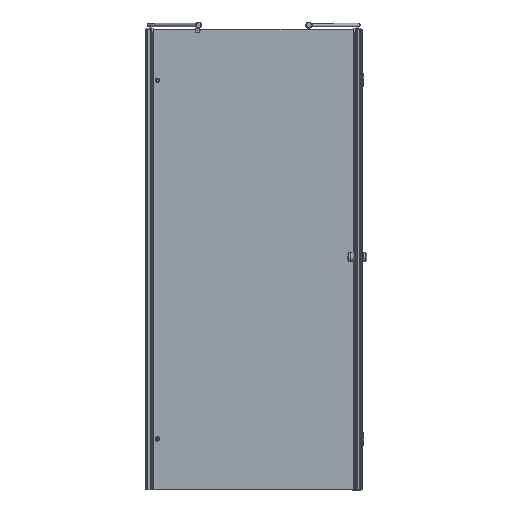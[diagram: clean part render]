
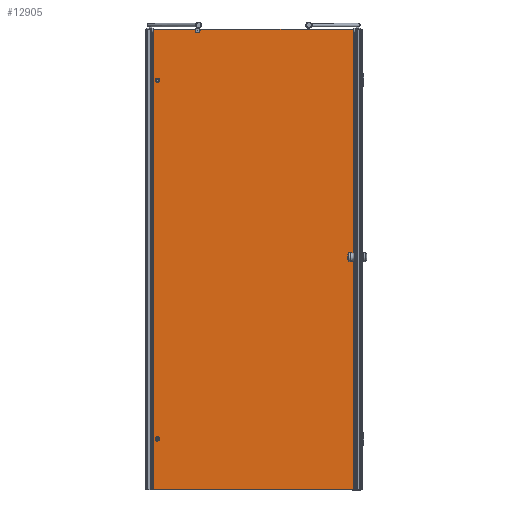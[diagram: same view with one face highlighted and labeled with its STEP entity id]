
A CAD part, left-side view. The second image highlights one B-rep face of the part: STEP entity #12905.
In plain terms, the highlighted planar face has unit normal (-1, 0, 0).
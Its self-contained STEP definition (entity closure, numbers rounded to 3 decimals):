
#321=LINE($,#18832,#1526);
#346=LINE($,#18924,#1551);
#543=LINE($,#20020,#1748);
#1093=LINE($,#21602,#2298);
#1115=LINE($,#21646,#2320);
#1526=VECTOR($,#15042,633.308);
#1551=VECTOR($,#15113,174.784);
#1748=VECTOR($,#15734,824.972);
#2298=VECTOR($,#17150,1900.);
#2320=VECTOR($,#17216,1898.279);
#2857=FACE_BOUND($,#4254,.T.);
#2858=FACE_BOUND($,#4255,.T.);
#2859=FACE_BOUND($,#4256,.T.);
#4254=EDGE_LOOP($,(#10557));
#4255=EDGE_LOOP($,(#10558));
#4256=EDGE_LOOP($,(#10559,#10560,#10561,#10562,#10563,#10564,#10565));
#4394=CIRCLE($,#13066,4.);
#4412=CIRCLE($,#13106,4.);
#4475=CIRCLE($,#13287,10.);
#4666=CIRCLE($,#13643,2.);
#4849=VERTEX_POINT($,#17850);
#4879=VERTEX_POINT($,#17940);
#5068=VERTEX_POINT($,#18563);
#5070=VERTEX_POINT($,#18567);
#5104=VERTEX_POINT($,#18831);
#5148=VERTEX_POINT($,#18922);
#5388=VERTEX_POINT($,#20017);
#5389=VERTEX_POINT($,#20019);
#5477=VERTEX_POINT($,#20310);
#5962=EDGE_CURVE($,#4849,#4849,#4394,.T.);
#6000=EDGE_CURVE($,#4879,#4879,#4412,.T.);
#6283=EDGE_CURVE($,#5068,#5070,#4475,.T.);
#6322=EDGE_CURVE($,#5068,#5104,#321,.T.);
#6369=EDGE_CURVE($,#5148,#5070,#346,.T.);
#6702=EDGE_CURVE($,#5389,#5388,#543,.T.);
#6834=EDGE_CURVE($,#5388,#5477,#4666,.T.);
#7400=EDGE_CURVE($,#5148,#5389,#1093,.T.);
#7422=EDGE_CURVE($,#5104,#5477,#1115,.T.);
#10557=ORIENTED_EDGE($,*,*,#5962,.T.);
#10558=ORIENTED_EDGE($,*,*,#6000,.T.);
#10559=ORIENTED_EDGE($,*,*,#6283,.T.);
#10560=ORIENTED_EDGE($,*,*,#6369,.F.);
#10561=ORIENTED_EDGE($,*,*,#7400,.T.);
#10562=ORIENTED_EDGE($,*,*,#6702,.T.);
#10563=ORIENTED_EDGE($,*,*,#6834,.T.);
#10564=ORIENTED_EDGE($,*,*,#7422,.F.);
#10565=ORIENTED_EDGE($,*,*,#6322,.F.);
#11522=PLANE($,#14005);
#12905=ADVANCED_FACE($,(#2857,#2858,#2859),#11522,.T.);
#13066=AXIS2_PLACEMENT_3D($,#17851,#14290,#14291);
#13106=AXIS2_PLACEMENT_3D($,#17941,#14390,#14391);
#13287=AXIS2_PLACEMENT_3D($,#18569,#14968,#14969);
#13643=AXIS2_PLACEMENT_3D($,#20323,#15997,#15998);
#14005=AXIS2_PLACEMENT_3D($,#21645,#17214,#17215);
#14290=DIRECTION('center_axis',(1.,0.,0.));
#14291=DIRECTION('ref_axis',(0.,-1.,0.));
#14390=DIRECTION('center_axis',(1.,0.,0.));
#14391=DIRECTION('ref_axis',(0.,-1.,0.));
#14968=DIRECTION('center_axis',(1.,0.,0.));
#14969=DIRECTION('ref_axis',(0.,-0.947,-0.322));
#15042=DIRECTION($,(0.,-1.,0.));
#15113=DIRECTION($,(0.,-1.,0.));
#15734=DIRECTION($,(0.,-1.,0.));
#15997=DIRECTION('center_axis',(1.,0.,0.));
#15998=DIRECTION('ref_axis',(0.,0.707,0.707));
#17150=DIRECTION($,(0.,0.,-1.));
#17214=DIRECTION('center_axis',(-1.,0.,0.));
#17215=DIRECTION('ref_axis',(0.,-1.,0.));
#17216=DIRECTION($,(0.,0.,-1.));
#17850=CARTESIAN_POINT('',(1774.,647.956,-304.056));
#17851=CARTESIAN_POINT('Origin',(1774.,643.956,-304.056));
#17940=CARTESIAN_POINT('',(1774.,647.956,1175.944));
#17941=CARTESIAN_POINT('Origin',(1774.,643.956,1175.944));
#18563=CARTESIAN_POINT('',(1774.,468.864,1385.944));
#18567=CARTESIAN_POINT('',(1774.,486.725,1385.944));
#18569=CARTESIAN_POINT('Origin',(1774.,477.795,1381.444));
#18831=CARTESIAN_POINT('',(1774.,-164.444,1385.944));
#18832=CARTESIAN_POINT($,(1774.,678.956,1385.944));
#18922=CARTESIAN_POINT('',(1774.,661.509,1385.944));
#18924=CARTESIAN_POINT($,(1774.,678.956,1385.944));
#20017=CARTESIAN_POINT('',(1774.,-163.463,-514.056));
#20019=CARTESIAN_POINT('',(1774.,661.509,-514.056));
#20020=CARTESIAN_POINT($,(1774.,678.956,-514.056));
#20310=CARTESIAN_POINT('',(1774.,-164.444,-512.335));
#20323=CARTESIAN_POINT('Origin',(1774.,-165.463,-514.056));
#21602=CARTESIAN_POINT($,(1774.,661.509,1385.944));
#21645=CARTESIAN_POINT('Origin',(1774.,678.956,-514.056));
#21646=CARTESIAN_POINT($,(1774.,-164.444,1385.944));
